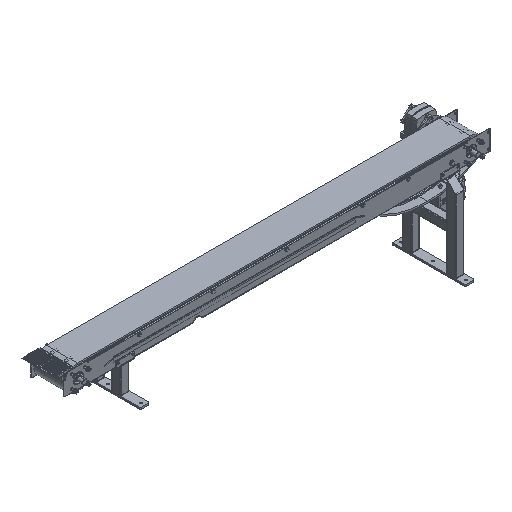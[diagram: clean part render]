
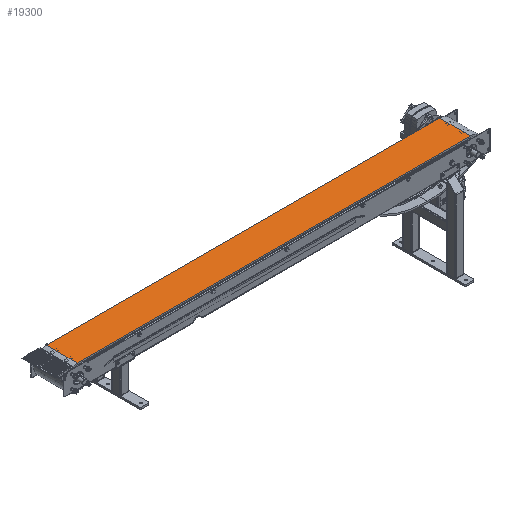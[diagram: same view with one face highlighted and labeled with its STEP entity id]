
A CAD part, isometric view. The second image highlights one B-rep face of the part: STEP entity #19300.
In plain terms, the highlighted planar face has unit normal (0, 0, 1).
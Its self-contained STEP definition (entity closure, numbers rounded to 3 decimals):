
#18136=PLANE('',#60236);
#19300=ADVANCED_FACE('',(#22612),#18136,.F.);
#22612=FACE_OUTER_BOUND('',#24987,.T.);
#24987=EDGE_LOOP('',(#35094,#35095,#35096,#35097));
#27897=LINE('',#77297,#31032);
#27898=LINE('',#77300,#31033);
#27899=LINE('',#77302,#31034);
#27900=LINE('',#77304,#31035);
#31032=VECTOR('',#65044,1.);
#31033=VECTOR('',#65045,1.);
#31034=VECTOR('',#65046,1.);
#31035=VECTOR('',#65047,1.);
#35094=ORIENTED_EDGE('',*,*,#51837,.F.);
#35095=ORIENTED_EDGE('',*,*,#51838,.F.);
#35096=ORIENTED_EDGE('',*,*,#51839,.F.);
#35097=ORIENTED_EDGE('',*,*,#51840,.F.);
#47514=VERTEX_POINT('',#77298);
#47515=VERTEX_POINT('',#77299);
#47516=VERTEX_POINT('',#77301);
#47517=VERTEX_POINT('',#77303);
#51837=EDGE_CURVE('',#47514,#47515,#27897,.T.);
#51838=EDGE_CURVE('',#47516,#47514,#27898,.T.);
#51839=EDGE_CURVE('',#47517,#47516,#27899,.T.);
#51840=EDGE_CURVE('',#47515,#47517,#27900,.T.);
#60236=AXIS2_PLACEMENT_3D('',#77305,#65048,#65049);
#65044=DIRECTION('',(0.,1.,0.));
#65045=DIRECTION('',(-1.,0.,0.));
#65046=DIRECTION('',(0.,-1.,0.));
#65047=DIRECTION('',(1.,0.,0.));
#65048=DIRECTION('',(0.,0.,-1.));
#65049=DIRECTION('',(1.,0.,0.));
#77297=CARTESIAN_POINT('',(0.,-85.,68.7));
#77298=CARTESIAN_POINT('',(0.,-85.,68.7));
#77299=CARTESIAN_POINT('',(0.,85.,68.7));
#77300=CARTESIAN_POINT('',(2160.,-85.,68.7));
#77301=CARTESIAN_POINT('',(2160.,-85.,68.7));
#77302=CARTESIAN_POINT('',(2160.,-85.,68.7));
#77303=CARTESIAN_POINT('',(2160.,85.,68.7));
#77304=CARTESIAN_POINT('',(2160.,85.,68.7));
#77305=CARTESIAN_POINT('',(2160.,-85.,68.7));
